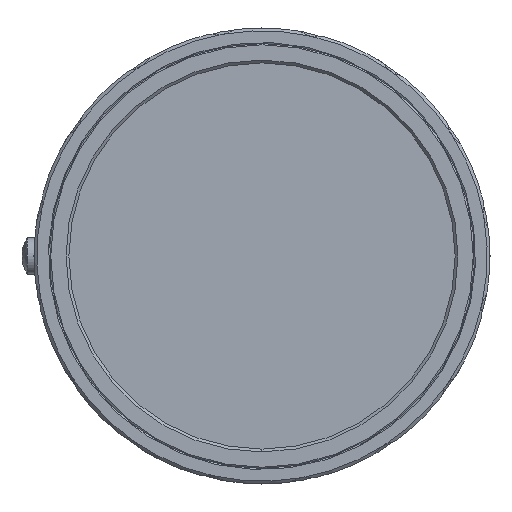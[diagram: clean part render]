
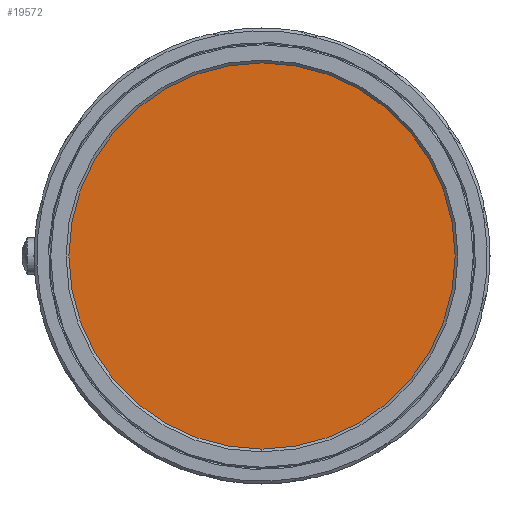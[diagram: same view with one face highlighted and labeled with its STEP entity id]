
A CAD part, left-side view. The second image highlights one B-rep face of the part: STEP entity #19572.
In plain terms, the highlighted planar face has unit normal (-1, 0, 0).
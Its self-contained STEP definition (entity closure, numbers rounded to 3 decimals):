
#258 = DIRECTION ( 'NONE',  ( 0., 0., -1. ) ) ;
#476 = DIRECTION ( 'NONE',  ( 0., 0., -1. ) ) ;
#1525 = DIRECTION ( 'NONE',  ( -1., 0., 0. ) ) ;
#1869 = DIRECTION ( 'NONE',  ( 1., 0., 0. ) ) ;
#2119 = CIRCLE ( 'NONE', #9027, 20.75 ) ;
#3472 = CIRCLE ( 'NONE', #12455, 20.75 ) ;
#3590 = FACE_OUTER_BOUND ( 'NONE', #7472, .T. ) ;
#3699 = CARTESIAN_POINT ( 'NONE',  ( 1.416, 0., 0. ) ) ;
#4467 = VERTEX_POINT ( 'NONE', #18990 ) ;
#6764 = EDGE_CURVE ( 'NONE', #12473, #4467, #2119, .T. ) ;
#7472 = EDGE_LOOP ( 'NONE', ( #9104, #11205 ) ) ;
#9027 = AXIS2_PLACEMENT_3D ( 'NONE', #3699, #14268, #476 ) ;
#9104 = ORIENTED_EDGE ( 'NONE', *, *, #14264, .T. ) ;
#9244 = CARTESIAN_POINT ( 'NONE',  ( 1.416, 0., 0. ) ) ;
#9440 = PLANE ( 'NONE',  #15101 ) ;
#11205 = ORIENTED_EDGE ( 'NONE', *, *, #6764, .T. ) ;
#12455 = AXIS2_PLACEMENT_3D ( 'NONE', #18373, #1525, #15126 ) ;
#12473 = VERTEX_POINT ( 'NONE', #17063 ) ;
#14264 = EDGE_CURVE ( 'NONE', #4467, #12473, #3472, .T. ) ;
#14268 = DIRECTION ( 'NONE',  ( -1., 0., 0. ) ) ;
#15101 = AXIS2_PLACEMENT_3D ( 'NONE', #9244, #1869, #258 ) ;
#15126 = DIRECTION ( 'NONE',  ( 0., 0., -1. ) ) ;
#17063 = CARTESIAN_POINT ( 'NONE',  ( 1.416, 0., -20.75 ) ) ;
#18373 = CARTESIAN_POINT ( 'NONE',  ( 1.416, 0., 0. ) ) ;
#18990 = CARTESIAN_POINT ( 'NONE',  ( 1.416, 0., 20.75 ) ) ;
#19572 = ADVANCED_FACE ( 'NONE', ( #3590 ), #9440, .F. ) ;
